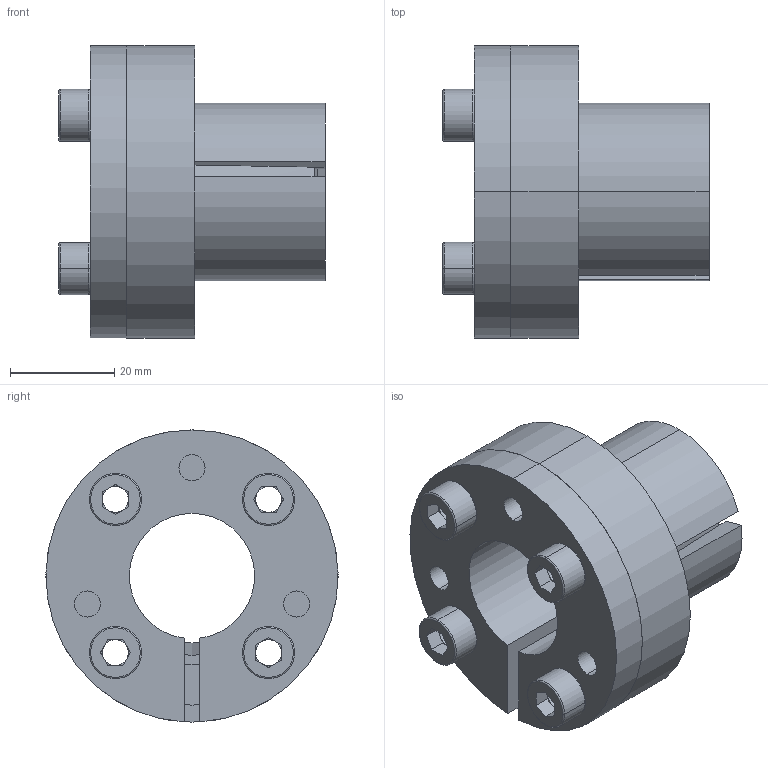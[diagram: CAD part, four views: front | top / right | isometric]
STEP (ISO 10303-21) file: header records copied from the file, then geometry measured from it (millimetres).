
FILE_DESCRIPTION (( 'STEP AP203' ), '1' );
FILE_NAME ('T-24-34.STEP', '2017-10-13T08:11:31', ( 'MYCOM' ), ( '' ), 'SwSTEP 2.0', 'SolidWorks 2015', '' );
FILE_SCHEMA (( 'CONFIG_CONTROL_DESIGN' ));
Length unit declared in the file: millimetre
Products named in the file (1): T-24-34
Bounding box: 51 x 56 x 56 mm (x, y, z)
Surface area: 27298.9 mm2 (no closed solid volume)
Topology: 0 solids, 7 shells, 127 faces, 335 edges, 212 vertices
Faces by surface type: plane 59, cylinder 47, torus 16, cone 5
Entity records: 4035 total; most frequent: DIRECTION 753, CARTESIAN_POINT 693, ORIENTED_EDGE 605, EDGE_CURVE 335, AXIS2_PLACEMENT_3D 294, VERTEX_POINT 212, CIRCLE 166, VECTOR 165
